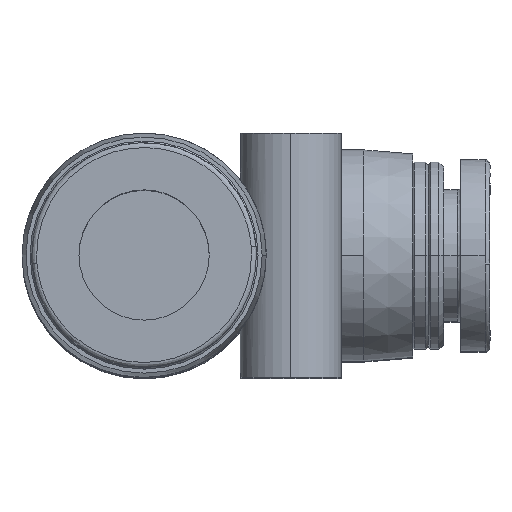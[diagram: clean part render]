
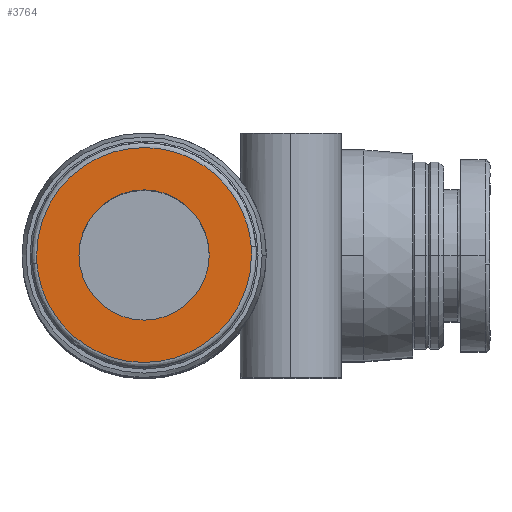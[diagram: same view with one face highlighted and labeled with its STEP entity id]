
A CAD part, top view. The second image highlights one B-rep face of the part: STEP entity #3764.
In plain terms, the highlighted planar face has unit normal (0, 0, 1).
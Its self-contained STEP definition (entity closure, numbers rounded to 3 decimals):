
#106 = ORIENTED_EDGE ( 'NONE', *, *, #6666, .T. ) ;
#153 = EDGE_CURVE ( 'NONE', #766, #431, #4789, .T. ) ;
#168 = ORIENTED_EDGE ( 'NONE', *, *, #2248, .T. ) ;
#208 = CIRCLE ( 'NONE', #4795, 4. ) ;
#251 = DIRECTION ( 'NONE',  ( 0., 0., 1. ) ) ;
#339 = FACE_OUTER_BOUND ( 'NONE', #4592, .T. ) ;
#431 = VERTEX_POINT ( 'NONE', #3844 ) ;
#496 = DIRECTION ( 'NONE',  ( 1., 0., 0. ) ) ;
#501 = CARTESIAN_POINT ( 'NONE',  ( -6.6, -0.177, 34.7 ) ) ;
#650 = CARTESIAN_POINT ( 'NONE',  ( 6.579, 0.53, 34.7 ) ) ;
#696 = FACE_BOUND ( 'NONE', #754, .T. ) ;
#754 = EDGE_LOOP ( 'NONE', ( #168, #106 ) ) ;
#766 = VERTEX_POINT ( 'NONE', #4097 ) ;
#845 = PLANE ( 'NONE',  #2990 ) ;
#1110 =( BOUNDED_CURVE ( )  B_SPLINE_CURVE ( 3, ( #5002, #2205, #501, #4477 ),
 .UNSPECIFIED., .F., .T. ) 
 B_SPLINE_CURVE_WITH_KNOTS ( ( 4, 4 ),
 ( 0.974, 1. ),
 .UNSPECIFIED. ) 
 CURVE ( )  GEOMETRIC_REPRESENTATION_ITEM ( )  RATIONAL_B_SPLINE_CURVE ( ( 1., 0.999, 0.999, 1. ) ) 
 REPRESENTATION_ITEM ( '' )  );
#1152 = DIRECTION ( 'NONE',  ( 0., 0., -1. ) ) ;
#1155 = VERTEX_POINT ( 'NONE', #6936 ) ;
#1164 = EDGE_CURVE ( 'NONE', #1155, #766, #3770, .T. ) ;
#1296 = CIRCLE ( 'NONE', #4485, 4. ) ;
#1421 = DIRECTION ( 'NONE',  ( 1., 0., 0. ) ) ;
#1774 = ORIENTED_EDGE ( 'NONE', *, *, #153, .F. ) ;
#2015 = VERTEX_POINT ( 'NONE', #7300 ) ;
#2205 = CARTESIAN_POINT ( 'NONE',  ( -6.593, -0.353, 34.7 ) ) ;
#2248 = EDGE_CURVE ( 'NONE', #4712, #2015, #1296, .T. ) ;
#2473 = CARTESIAN_POINT ( 'NONE',  ( 6.579, 0.53, 34.7 ) ) ;
#2990 = AXIS2_PLACEMENT_3D ( 'NONE', #3663, #251, #1421 ) ;
#3172 = ORIENTED_EDGE ( 'NONE', *, *, #1164, .F. ) ;
#3663 = CARTESIAN_POINT ( 'NONE',  ( -7.1, 7.1, 34.7 ) ) ;
#3764 = ADVANCED_FACE ( '55', ( #696, #339 ), #845, .T. ) ;
#3770 =( BOUNDED_CURVE ( )  B_SPLINE_CURVE ( 3, ( #650, #5794, #5814, #5834 ),
 .UNSPECIFIED., .F., .T. ) 
 B_SPLINE_CURVE_WITH_KNOTS ( ( 4, 4 ),
 ( 0.974, 1. ),
 .UNSPECIFIED. ) 
 CURVE ( )  GEOMETRIC_REPRESENTATION_ITEM ( )  RATIONAL_B_SPLINE_CURVE ( ( 1., 0.999, 0.999, 1. ) ) 
 REPRESENTATION_ITEM ( '' )  );
#3844 = CARTESIAN_POINT ( 'NONE',  ( -6.579, -0.53, 34.7 ) ) ;
#3905 = DIRECTION ( 'NONE',  ( 0., 0., -1. ) ) ;
#3934 = CARTESIAN_POINT ( 'NONE',  ( 4., 0., 34.7 ) ) ;
#4017 = ORIENTED_EDGE ( 'NONE', *, *, #6806, .F. ) ;
#4097 = CARTESIAN_POINT ( 'NONE',  ( 6.6, 0., 34.7 ) ) ;
#4477 = CARTESIAN_POINT ( 'NONE',  ( -6.6, 0., 34.7 ) ) ;
#4485 = AXIS2_PLACEMENT_3D ( 'NONE', #4549, #1152, #5140 ) ;
#4525 = CARTESIAN_POINT ( 'NONE',  ( -6.6, 0., 34.7 ) ) ;
#4535 = ORIENTED_EDGE ( 'NONE', *, *, #4654, .F. ) ;
#4549 = CARTESIAN_POINT ( 'NONE',  ( 0., 0., 34.7 ) ) ;
#4592 = EDGE_LOOP ( 'NONE', ( #1774, #3172, #4017, #4535 ) ) ;
#4619 =( BOUNDED_CURVE ( )  B_SPLINE_CURVE ( 3, ( #6415, #4736, #5887, #2473 ),
 .UNSPECIFIED., .F., .F. ) 
 B_SPLINE_CURVE_WITH_KNOTS ( ( 4, 4 ),
 ( 0., 0.974 ),
 .UNSPECIFIED. ) 
 CURVE ( )  GEOMETRIC_REPRESENTATION_ITEM ( )  RATIONAL_B_SPLINE_CURVE ( ( 1., 0.36, 0.36, 1. ) ) 
 REPRESENTATION_ITEM ( '' )  );
#4654 = EDGE_CURVE ( 'NONE', #431, #5804, #1110, .T. ) ;
#4712 = VERTEX_POINT ( 'NONE', #3934 ) ;
#4736 = CARTESIAN_POINT ( 'NONE',  ( -6.6, 12.209, 34.7 ) ) ;
#4789 =( BOUNDED_CURVE ( )  B_SPLINE_CURVE ( 3, ( #5456, #5571, #5608, #5977 ),
 .UNSPECIFIED., .F., .F. ) 
 B_SPLINE_CURVE_WITH_KNOTS ( ( 4, 4 ),
 ( 0., 0.974 ),
 .UNSPECIFIED. ) 
 CURVE ( )  GEOMETRIC_REPRESENTATION_ITEM ( )  RATIONAL_B_SPLINE_CURVE ( ( 1., 0.36, 0.36, 1. ) ) 
 REPRESENTATION_ITEM ( '' )  );
#4795 = AXIS2_PLACEMENT_3D ( 'NONE', #7316, #3905, #496 ) ;
#5002 = CARTESIAN_POINT ( 'NONE',  ( -6.579, -0.53, 34.7 ) ) ;
#5140 = DIRECTION ( 'NONE',  ( 1., 0., 0. ) ) ;
#5456 = CARTESIAN_POINT ( 'NONE',  ( 6.6, 0., 34.7 ) ) ;
#5571 = CARTESIAN_POINT ( 'NONE',  ( 6.6, -12.209, 34.7 ) ) ;
#5608 = CARTESIAN_POINT ( 'NONE',  ( -5.599, -12.699, 34.7 ) ) ;
#5794 = CARTESIAN_POINT ( 'NONE',  ( 6.593, 0.353, 34.7 ) ) ;
#5804 = VERTEX_POINT ( 'NONE', #4525 ) ;
#5814 = CARTESIAN_POINT ( 'NONE',  ( 6.6, 0.177, 34.7 ) ) ;
#5834 = CARTESIAN_POINT ( 'NONE',  ( 6.6, 0., 34.7 ) ) ;
#5887 = CARTESIAN_POINT ( 'NONE',  ( 5.599, 12.699, 34.7 ) ) ;
#5977 = CARTESIAN_POINT ( 'NONE',  ( -6.579, -0.53, 34.7 ) ) ;
#6415 = CARTESIAN_POINT ( 'NONE',  ( -6.6, 0., 34.7 ) ) ;
#6666 = EDGE_CURVE ( 'NONE', #2015, #4712, #208, .T. ) ;
#6806 = EDGE_CURVE ( 'NONE', #5804, #1155, #4619, .T. ) ;
#6936 = CARTESIAN_POINT ( 'NONE',  ( 6.579, 0.53, 34.7 ) ) ;
#7300 = CARTESIAN_POINT ( 'NONE',  ( -4., 0., 34.7 ) ) ;
#7316 = CARTESIAN_POINT ( 'NONE',  ( 0., 0., 34.7 ) ) ;
